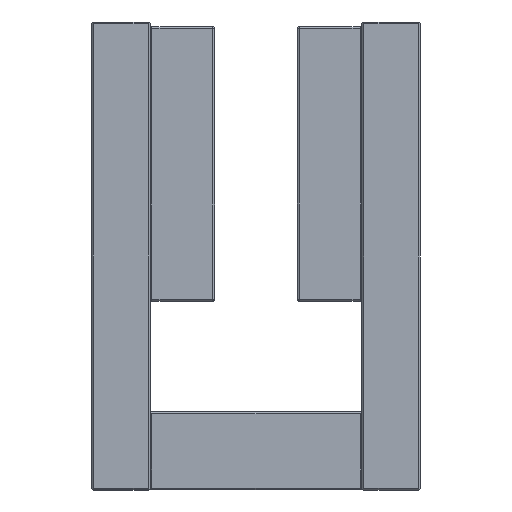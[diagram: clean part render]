
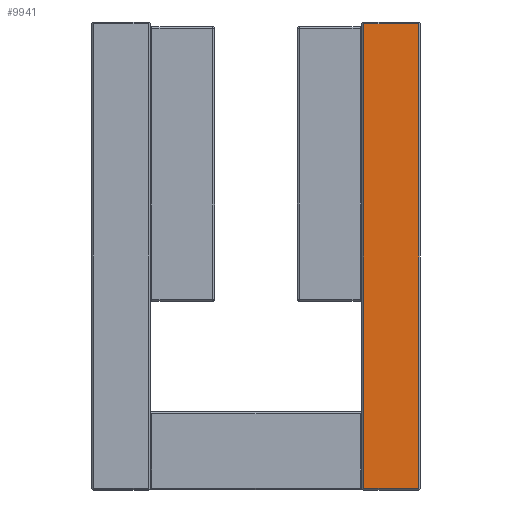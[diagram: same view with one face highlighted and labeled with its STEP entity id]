
A CAD part, front view. The second image highlights one B-rep face of the part: STEP entity #9941.
In plain terms, the highlighted planar face has unit normal (0, -1, 0).
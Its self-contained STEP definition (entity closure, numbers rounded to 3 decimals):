
#509 = VECTOR ( 'NONE', #16322, 1000. ) ;
#1273 = EDGE_CURVE ( 'NONE', #19350, #7380, #7341, .T. ) ;
#1589 = VECTOR ( 'NONE', #7537, 1000. ) ;
#1887 = PLANE ( 'NONE',  #7072 ) ;
#2086 = LINE ( 'NONE', #5967, #1589 ) ;
#3436 = DIRECTION ( 'NONE',  ( 0., 0., 1. ) ) ;
#3958 = CARTESIAN_POINT ( 'NONE',  ( 0.2, 0., 0. ) ) ;
#4106 = DIRECTION ( 'NONE',  ( 1., 0., 0. ) ) ;
#4418 = VECTOR ( 'NONE', #19827, 1000. ) ;
#5365 = LINE ( 'NONE', #5866, #4418 ) ;
#5786 = ORIENTED_EDGE ( 'NONE', *, *, #19694, .T. ) ;
#5866 = CARTESIAN_POINT ( 'NONE',  ( 50.6, 0., 0. ) ) ;
#5967 = CARTESIAN_POINT ( 'NONE',  ( 0., 0., -0.2 ) ) ;
#6848 = CARTESIAN_POINT ( 'NONE',  ( 50.6, 0., -0.2 ) ) ;
#7072 = AXIS2_PLACEMENT_3D ( 'NONE', #15261, #12648, #3436 ) ;
#7341 = LINE ( 'NONE', #11789, #7812 ) ;
#7380 = VERTEX_POINT ( 'NONE', #8509 ) ;
#7537 = DIRECTION ( 'NONE',  ( -1., 0., 0. ) ) ;
#7812 = VECTOR ( 'NONE', #4106, 1000. ) ;
#8509 = CARTESIAN_POINT ( 'NONE',  ( 50.6, 0., -6.15 ) ) ;
#8656 = CARTESIAN_POINT ( 'NONE',  ( 0.2, 0., -0.2 ) ) ;
#9177 = LINE ( 'NONE', #3958, #509 ) ;
#9941 = ADVANCED_FACE ( 'NONE', ( #17956 ), #1887, .F. ) ;
#10388 = ORIENTED_EDGE ( 'NONE', *, *, #12208, .T. ) ;
#11789 = CARTESIAN_POINT ( 'NONE',  ( 0., 0., -6.15 ) ) ;
#12208 = EDGE_CURVE ( 'NONE', #15207, #19350, #9177, .T. ) ;
#12648 = DIRECTION ( 'NONE',  ( 0., 1., 0. ) ) ;
#14181 = CARTESIAN_POINT ( 'NONE',  ( 0.2, 0., -6.15 ) ) ;
#15207 = VERTEX_POINT ( 'NONE', #8656 ) ;
#15261 = CARTESIAN_POINT ( 'NONE',  ( 0., 0., 0. ) ) ;
#16322 = DIRECTION ( 'NONE',  ( 0., 0., -1. ) ) ;
#17116 = EDGE_CURVE ( 'NONE', #17609, #15207, #2086, .T. ) ;
#17499 = EDGE_LOOP ( 'NONE', ( #19124, #10388, #18165, #5786 ) ) ;
#17609 = VERTEX_POINT ( 'NONE', #6848 ) ;
#17956 = FACE_OUTER_BOUND ( 'NONE', #17499, .T. ) ;
#18165 = ORIENTED_EDGE ( 'NONE', *, *, #1273, .T. ) ;
#19124 = ORIENTED_EDGE ( 'NONE', *, *, #17116, .T. ) ;
#19350 = VERTEX_POINT ( 'NONE', #14181 ) ;
#19694 = EDGE_CURVE ( 'NONE', #7380, #17609, #5365, .T. ) ;
#19827 = DIRECTION ( 'NONE',  ( 0., 0., 1. ) ) ;
